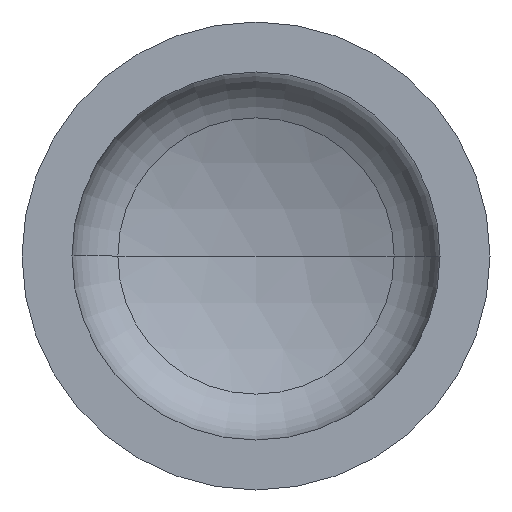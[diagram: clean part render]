
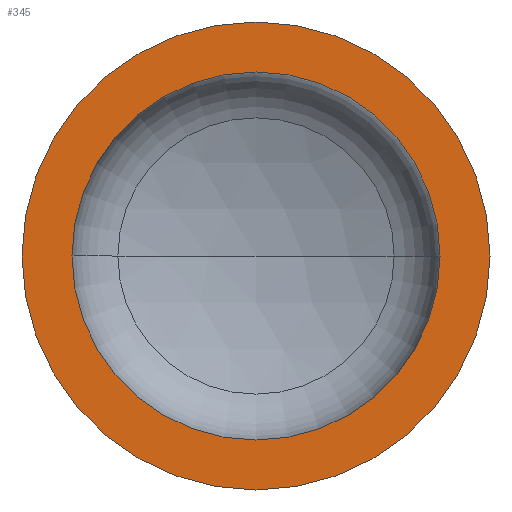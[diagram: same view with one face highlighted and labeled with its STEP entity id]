
A CAD part, front view. The second image highlights one B-rep face of the part: STEP entity #345.
In plain terms, the highlighted planar face has unit normal (0, -1, 0).
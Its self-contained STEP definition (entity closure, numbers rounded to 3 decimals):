
#1 = AXIS2_PLACEMENT_3D ( 'NONE', #338, #100, #102 ) ;
#5 = FACE_OUTER_BOUND ( 'NONE', #45, .T. ) ;
#7 = DIRECTION ( 'NONE',  ( 0., -1., 0. ) ) ;
#12 = ORIENTED_EDGE ( 'NONE', *, *, #78, .F. ) ;
#22 = CARTESIAN_POINT ( 'NONE',  ( 0., 0., 0. ) ) ;
#38 = PLANE ( 'NONE',  #1 ) ;
#45 = EDGE_LOOP ( 'NONE', ( #142, #68 ) ) ;
#51 = AXIS2_PLACEMENT_3D ( 'NONE', #272, #327, #328 ) ;
#53 = AXIS2_PLACEMENT_3D ( 'NONE', #314, #313, #319 ) ;
#68 = ORIENTED_EDGE ( 'NONE', *, *, #75, .T. ) ;
#75 = EDGE_CURVE ( 'NONE', #171, #83, #399, .T. ) ;
#78 = EDGE_CURVE ( 'NONE', #296, #144, #344, .T. ) ;
#83 = VERTEX_POINT ( 'NONE', #317 ) ;
#99 = EDGE_LOOP ( 'NONE', ( #12, #158 ) ) ;
#100 = DIRECTION ( 'NONE',  ( 0., 1., 0. ) ) ;
#102 = DIRECTION ( 'NONE',  ( -1., 0., 0. ) ) ;
#142 = ORIENTED_EDGE ( 'NONE', *, *, #371, .T. ) ;
#144 = VERTEX_POINT ( 'NONE', #201 ) ;
#145 = CARTESIAN_POINT ( 'NONE',  ( 354., 0., 0. ) ) ;
#158 = ORIENTED_EDGE ( 'NONE', *, *, #355, .F. ) ;
#171 = VERTEX_POINT ( 'NONE', #283 ) ;
#197 = AXIS2_PLACEMENT_3D ( 'NONE', #22, #364, #224 ) ;
#201 = CARTESIAN_POINT ( 'NONE',  ( -354., 0., 0. ) ) ;
#224 = DIRECTION ( 'NONE',  ( 1., 0., 0. ) ) ;
#238 = CARTESIAN_POINT ( 'NONE',  ( 0., 0., 0. ) ) ;
#243 = DIRECTION ( 'NONE',  ( 1., 0., 0. ) ) ;
#259 = AXIS2_PLACEMENT_3D ( 'NONE', #238, #7, #243 ) ;
#272 = CARTESIAN_POINT ( 'NONE',  ( 0., 0., 0. ) ) ;
#283 = CARTESIAN_POINT ( 'NONE',  ( -450., 0., 0. ) ) ;
#295 = CIRCLE ( 'NONE', #259, 450. ) ;
#296 = VERTEX_POINT ( 'NONE', #145 ) ;
#312 = FACE_BOUND ( 'NONE', #99, .T. ) ;
#313 = DIRECTION ( 'NONE',  ( 0., -1., 0. ) ) ;
#314 = CARTESIAN_POINT ( 'NONE',  ( 0., 0., 0. ) ) ;
#317 = CARTESIAN_POINT ( 'NONE',  ( 450., 0., 0. ) ) ;
#319 = DIRECTION ( 'NONE',  ( 1., 0., 0. ) ) ;
#327 = DIRECTION ( 'NONE',  ( 0., -1., 0. ) ) ;
#328 = DIRECTION ( 'NONE',  ( 1., 0., 0. ) ) ;
#338 = CARTESIAN_POINT ( 'NONE',  ( -450., 0., 0. ) ) ;
#344 = CIRCLE ( 'NONE', #51, 354. ) ;
#345 = ADVANCED_FACE ( 'NONE', ( #312, #5 ), #38, .F. ) ;
#355 = EDGE_CURVE ( 'NONE', #144, #296, #367, .T. ) ;
#364 = DIRECTION ( 'NONE',  ( 0., -1., 0. ) ) ;
#367 = CIRCLE ( 'NONE', #197, 354. ) ;
#371 = EDGE_CURVE ( 'NONE', #83, #171, #295, .T. ) ;
#399 = CIRCLE ( 'NONE', #53, 450. ) ;
